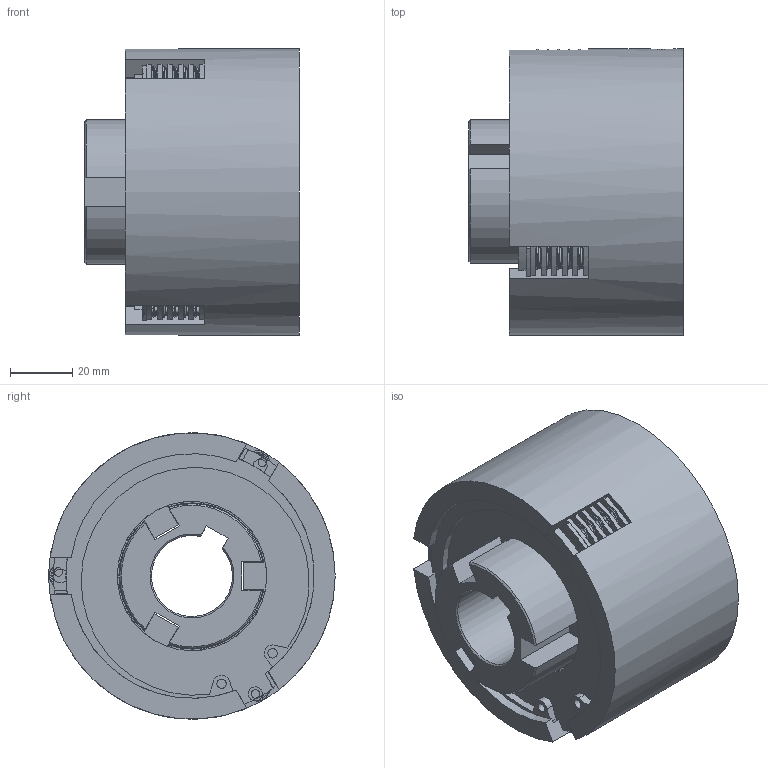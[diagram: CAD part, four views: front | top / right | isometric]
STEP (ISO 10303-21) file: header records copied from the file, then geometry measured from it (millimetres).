
FILE_DESCRIPTION(/* description */ (''),/* implementation_level */ '2;1');
FILE_NAME(/* name */ 'X:\INVENTOR\DISEGNI\03_Friz_Oleod_Pneum_Cil_Stat\03_05 FPL-BF\03_05_002_01 FPL02-BF\03_05_002_01 FPL02-BF@STEP.stp',/* time_stamp */ '2018-12-20T14:35:31+01:00',/* author */ ('stefano'),/* organization */ (''),/* preprocessor_version */ 'ST-DEVELOPER v17',/* originating_system */ 'Autodesk Inventor 2018',/* authorisation */ '');
FILE_SCHEMA (('AUTOMOTIVE_DESIGN { 1 0 10303 214 3 1 1 }'));
Length unit declared in the file: millimetre
Products named in the file (1): 03_05_002_01 FPL02-BF-V2013_Substitute_1
Bounding box: 69 x 92 x 92 mm (x, y, z)
Volume: 293403.9 mm3; surface area: 131428.1 mm2
Topology: 7 solids, 7 shells, 403 faces, 1197 edges, 802 vertices
Faces by surface type: plane 230, cylinder 131, cone 24, bspline 15, torus 3
Full cylindrical faces by diameter (mm): 2 x3, 2.75 x7, 3 x2, 3.5 x3, 4.134 x4, 8.566 x1, 40 x1, 48 x9, 62.5 x1, 65 x1, 75 x7, 92 x1
Entity records: 19413 total; most frequent: CARTESIAN_POINT 7913, DIRECTION 2422, ORIENTED_EDGE 2382, EDGE_CURVE 1191, AXIS2_PLACEMENT_3D 916, VERTEX_POINT 802, LINE 590, VECTOR 590
